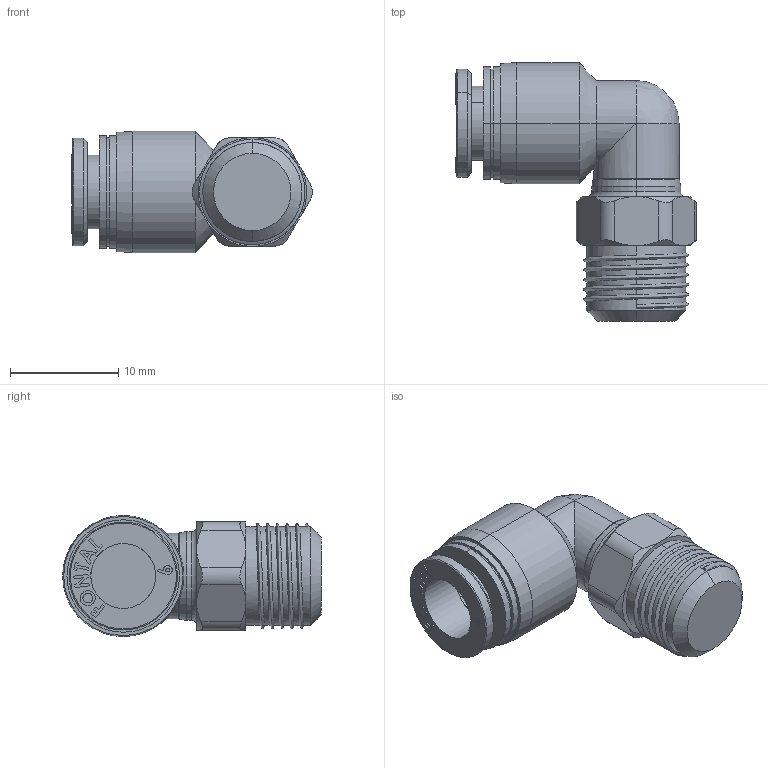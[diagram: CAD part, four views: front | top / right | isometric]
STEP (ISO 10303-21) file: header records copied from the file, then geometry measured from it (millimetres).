
FILE_DESCRIPTION (( 'STEP AP203' ), '1' );
FILE_NAME ('FPL6-01.STEP', '2016-01-14T21:05:26', ( '' ), ( '' ), 'SwSTEP 2.0', 'SolidWorks 2014', '' );
FILE_SCHEMA (( 'CONFIG_CONTROL_DESIGN' ));
Length unit declared in the file: millimetre
Products named in the file (4): FPC6-M5-A; FPL6-01-A; FPL6-01; FPL6-01-B
Assembly tree (3 placements, depth 2):
  FPL6-01
    FPL6-01-A
    FPL6-01-B
    FPC6-M5-A
Bounding box: 22.22 x 23.9 x 11.2 mm (x, y, z)
Volume: 2055.6 mm3; surface area: 1809.7 mm2
Topology: 3 solids, 3 shells, 171 faces, 427 edges, 278 vertices
Faces by surface type: plane 81, cylinder 43, cone 24, bspline 19, torus 4
Entity records: 8233 total; most frequent: CARTESIAN_POINT 3948, ORIENTED_EDGE 850, DIRECTION 722, EDGE_CURVE 425, VERTEX_POINT 278, AXIS2_PLACEMENT_3D 242, VECTOR 238, LINE 238
